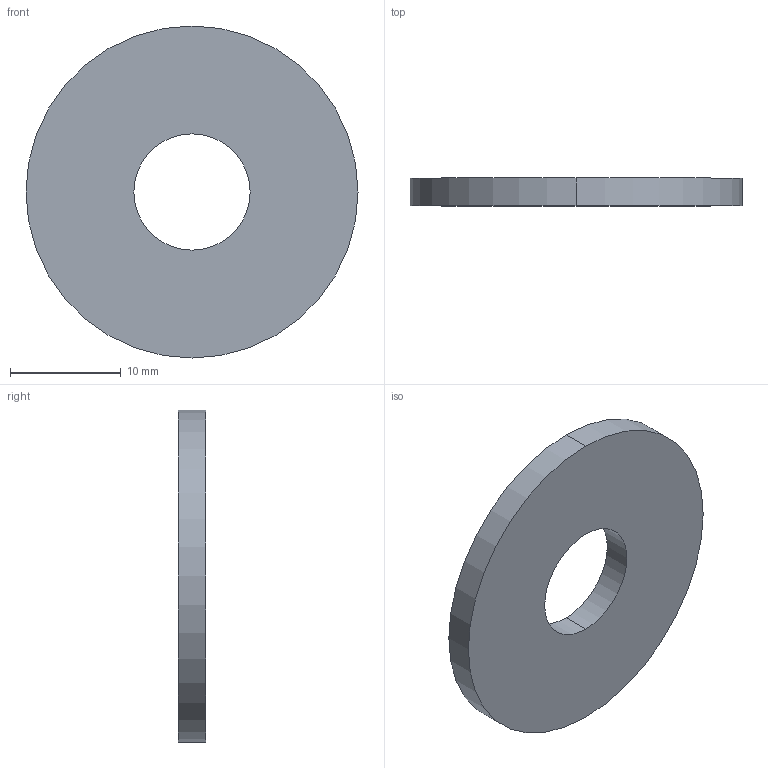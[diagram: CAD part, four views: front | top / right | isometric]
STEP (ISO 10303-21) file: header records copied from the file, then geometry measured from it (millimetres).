
FILE_DESCRIPTION (( 'STEP AP203' ), '1' );
FILE_NAME ('Wiberger-din9021_10-5.step', '2015-09-02T12:16:15', ( 'Magnus' ), ( 'Microsoft' ), 'SwSTEP 2.0', 'SolidWorks 2015', '' );
FILE_SCHEMA (( 'CONFIG_CONTROL_DESIGN' ));
Length unit declared in the file: millimetre
Products named in the file (1): Wiberger-din9021_10-5
Bounding box: 30 x 2.5 x 30 mm (x, y, z)
Volume: 1550.7 mm3; surface area: 1558.6 mm2
Topology: 1 solids, 1 shells, 6 faces, 12 edges, 8 vertices
Faces by surface type: cylinder 4, plane 2
Entity records: 245 total; most frequent: DIRECTION 34, CARTESIAN_POINT 27, ORIENTED_EDGE 24, AXIS2_PLACEMENT_3D 15, EDGE_CURVE 12, PERSON_AND_ORGANIZATION 8, CIRCLE 8, VERTEX_POINT 8
